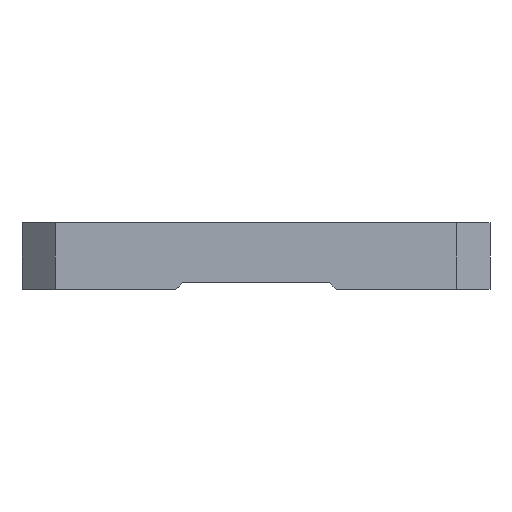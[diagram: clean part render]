
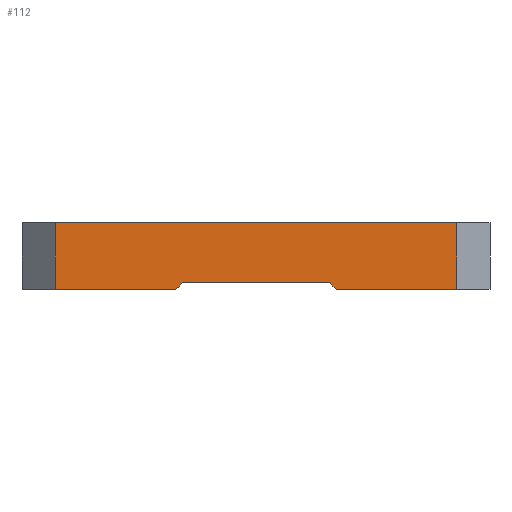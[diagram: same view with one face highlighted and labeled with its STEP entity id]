
A CAD part, left-side view. The second image highlights one B-rep face of the part: STEP entity #112.
In plain terms, the highlighted planar face has unit normal (-1, 0, 0).
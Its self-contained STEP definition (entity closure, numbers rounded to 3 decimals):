
#112 = ADVANCED_FACE( '', ( #263 ), #264, .T. );
#263 = FACE_OUTER_BOUND( '', #453, .T. );
#264 = PLANE( '', #454 );
#453 = EDGE_LOOP( '', ( #835, #836, #837, #838, #839, #840, #841, #842 ) );
#454 = AXIS2_PLACEMENT_3D( '', #843, #844, #845 );
#835 = ORIENTED_EDGE( '', *, *, #1066, .T. );
#836 = ORIENTED_EDGE( '', *, *, #1143, .T. );
#837 = ORIENTED_EDGE( '', *, *, #1012, .T. );
#838 = ORIENTED_EDGE( '', *, *, #1051, .T. );
#839 = ORIENTED_EDGE( '', *, *, #1053, .T. );
#840 = ORIENTED_EDGE( '', *, *, #1116, .T. );
#841 = ORIENTED_EDGE( '', *, *, #1104, .T. );
#842 = ORIENTED_EDGE( '', *, *, #1144, .T. );
#843 = CARTESIAN_POINT( '', ( -40., 0., -5. ) );
#844 = DIRECTION( '', ( -1., 0., 0. ) );
#845 = DIRECTION( '', ( 0., 0., 1. ) );
#1012 = EDGE_CURVE( '', #1165, #1163, #1166, .T. );
#1051 = EDGE_CURVE( '', #1163, #1235, #1237, .T. );
#1053 = EDGE_CURVE( '', #1235, #1238, #1240, .T. );
#1066 = EDGE_CURVE( '', #1264, #1262, #1265, .T. );
#1104 = EDGE_CURVE( '', #1338, #1336, #1339, .T. );
#1116 = EDGE_CURVE( '', #1238, #1338, #1361, .T. );
#1143 = EDGE_CURVE( '', #1262, #1165, #1399, .T. );
#1144 = EDGE_CURVE( '', #1336, #1264, #1400, .T. );
#1163 = VERTEX_POINT( '', #1426 );
#1165 = VERTEX_POINT( '', #1429 );
#1166 = LINE( '', #1430, #1431 );
#1235 = VERTEX_POINT( '', #1522 );
#1237 = LINE( '', #1525, #1526 );
#1238 = VERTEX_POINT( '', #1527 );
#1240 = LINE( '', #1530, #1531 );
#1262 = VERTEX_POINT( '', #1558 );
#1264 = VERTEX_POINT( '', #1561 );
#1265 = LINE( '', #1562, #1563 );
#1336 = VERTEX_POINT( '', #1650 );
#1338 = VERTEX_POINT( '', #1653 );
#1339 = LINE( '', #1654, #1655 );
#1361 = LINE( '', #1680, #1681 );
#1399 = LINE( '', #1738, #1739 );
#1400 = LINE( '', #1740, #1741 );
#1426 = CARTESIAN_POINT( '', ( -40., 12., -5. ) );
#1429 = CARTESIAN_POINT( '', ( -40., 30., -5. ) );
#1430 = CARTESIAN_POINT( '', ( -40., 0., -5. ) );
#1431 = VECTOR( '', #1768, 1000. );
#1522 = CARTESIAN_POINT( '', ( -40., 11., -4. ) );
#1525 = CARTESIAN_POINT( '', ( -40., 6., 1. ) );
#1526 = VECTOR( '', #1837, 1000. );
#1527 = CARTESIAN_POINT( '', ( -40., -11., -4. ) );
#1530 = CARTESIAN_POINT( '', ( -40., 0., -4. ) );
#1531 = VECTOR( '', #1839, 1000. );
#1558 = CARTESIAN_POINT( '', ( -40., 30., 5. ) );
#1561 = CARTESIAN_POINT( '', ( -40., -30., 5. ) );
#1562 = CARTESIAN_POINT( '', ( -40., 0., 5. ) );
#1563 = VECTOR( '', #1864, 1000. );
#1650 = CARTESIAN_POINT( '', ( -40., -30., -5. ) );
#1653 = CARTESIAN_POINT( '', ( -40., -12., -5. ) );
#1654 = CARTESIAN_POINT( '', ( -40., 0., -5. ) );
#1655 = VECTOR( '', #1942, 1000. );
#1680 = CARTESIAN_POINT( '', ( -40., -6., 1. ) );
#1681 = VECTOR( '', #1970, 1000. );
#1738 = CARTESIAN_POINT( '', ( -40., 30., -5. ) );
#1739 = VECTOR( '', #2011, 1000. );
#1740 = CARTESIAN_POINT( '', ( -40., -30., -5. ) );
#1741 = VECTOR( '', #2012, 1000. );
#1768 = DIRECTION( '', ( 0., -1., 0. ) );
#1837 = DIRECTION( '', ( 0., -0.707, 0.707 ) );
#1839 = DIRECTION( '', ( 0., -1., 0. ) );
#1864 = DIRECTION( '', ( 0., 1., 0. ) );
#1942 = DIRECTION( '', ( 0., -1., 0. ) );
#1970 = DIRECTION( '', ( 0., -0.707, -0.707 ) );
#2011 = DIRECTION( '', ( 0., 0., -1. ) );
#2012 = DIRECTION( '', ( 0., 0., 1. ) );
